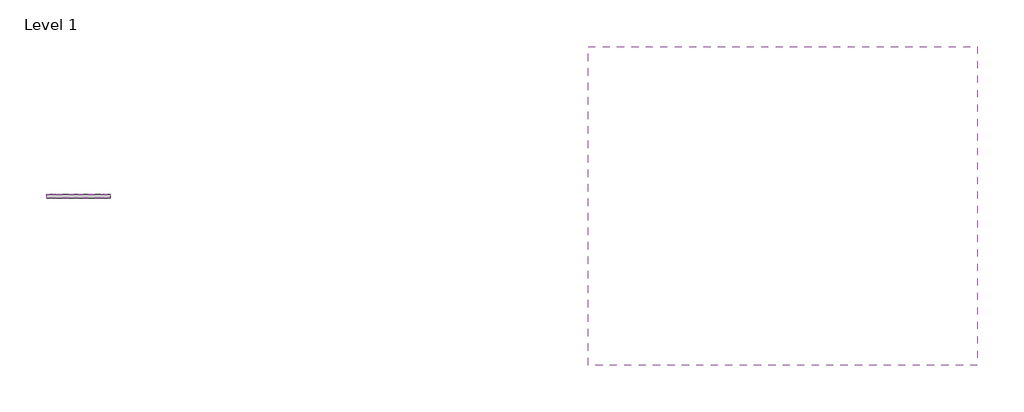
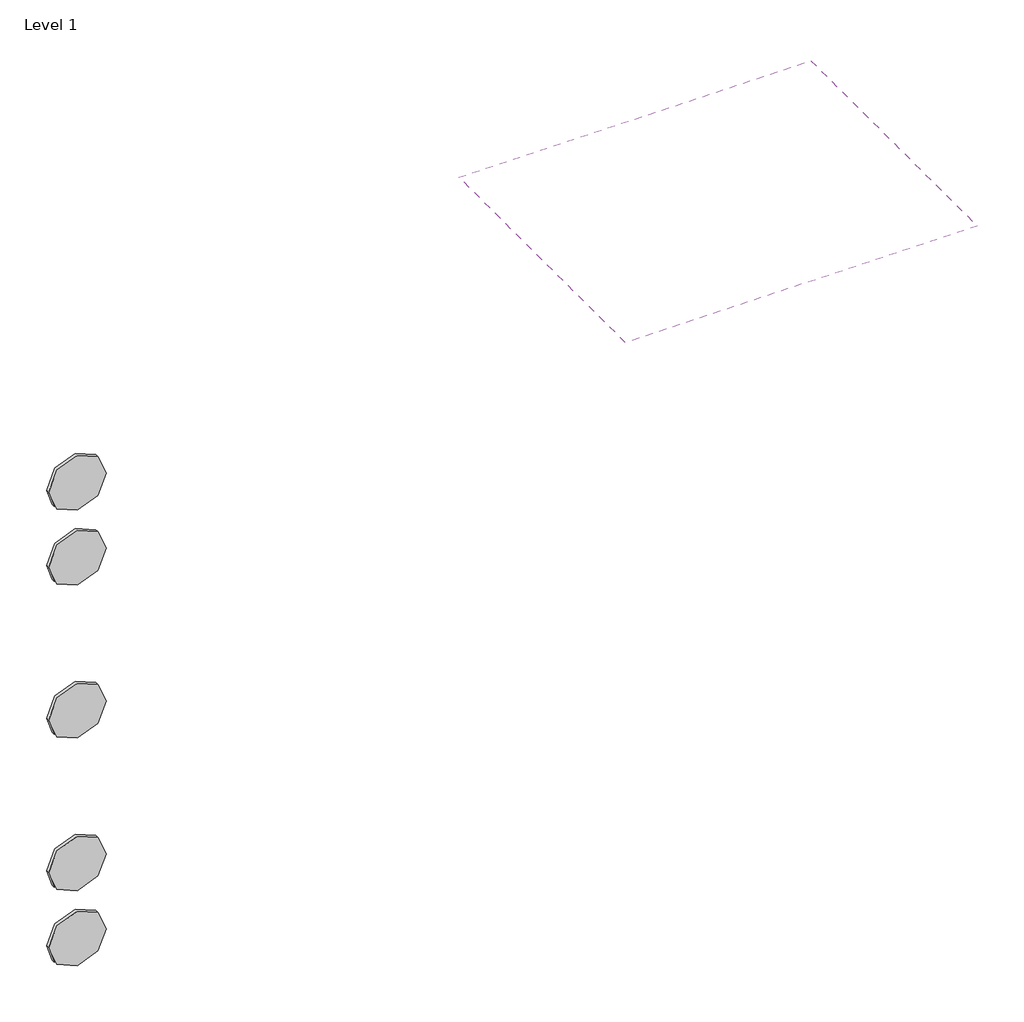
# One storey, incomplete: 5 proxies, 1 covering.
"""IFC4 building model written with IfcOpenShell, lengths in millimetres."""

from ifc_helpers import new_model, si_unit, frame, origin, place, context, project, spatial, polyline, outline, extrude, transform, mapped, element, save
from components import materialmodel_materialmodel_41144b76

model = new_model("IFC4")

# Units and contexts
model_context = context("Model", 3, world=origin())
ifc_project = project(units=[si_unit("LENGTHUNIT", "METRE", prefix="MILLI")], contexts=[model_context])

# Site, building, storey
site = spatial("IfcSite", under=ifc_project)
building = spatial("IfcBuilding", under=site)
storey = spatial("IfcBuildingStorey", under=building, Name="Level 1", Elevation=0.0)

# Proxies
placement = place(None, origin())
materialmodel_materialmodel_shape = materialmodel_materialmodel_41144b76(model_context)
element("IfcBuildingElementProxy", 1, Name="MaterialModel : MaterialModel", ObjectType="MaterialModel : MaterialModel", at=placement, inside=storey, context=model_context, shape_type="MappedRepresentation", body=[
    mapped(materialmodel_materialmodel_shape, transform((-16077.8072231, 6097.5863071, 816.7046249), x_axis=(1.0, 0.0, 0.0), y_axis=(0.0, 1.0, 0.0), z_axis=(0.0, 0.0, 1.0))),
])
element("IfcBuildingElementProxy", 2, Name="MaterialModel : MaterialModel", ObjectType="MaterialModel : MaterialModel", at=placement, inside=storey, context=model_context, shape_type="MappedRepresentation", body=[
    mapped(materialmodel_materialmodel_shape, transform((-16077.8072231, 6097.5863071, 1652.218674), x_axis=(1.0, 0.0, 0.0), y_axis=(0.0, 1.0, 0.0), z_axis=(0.0, 0.0, 1.0))),
])
element("IfcBuildingElementProxy", 3, Name="MaterialModel : MaterialModel", ObjectType="MaterialModel : MaterialModel", at=placement, inside=storey, context=model_context, shape_type="MappedRepresentation", body=[
    mapped(materialmodel_materialmodel_shape, transform((-16077.8072231, 6097.5863071, 1377.218674), x_axis=(1.0, 0.0, 0.0), y_axis=(0.0, 1.0, 0.0), z_axis=(0.0, 0.0, 1.0))),
])
element("IfcBuildingElementProxy", 4, Name="MaterialModel : MaterialModel", ObjectType="MaterialModel : MaterialModel", at=placement, inside=storey, context=model_context, shape_type="MappedRepresentation", body=[
    mapped(materialmodel_materialmodel_shape, transform((-16077.8072231, 6097.5863071, 256.7046249), x_axis=(1.0, 0.0, 0.0), y_axis=(0.0, 1.0, 0.0), z_axis=(0.0, 0.0, 1.0))),
])
element("IfcBuildingElementProxy", 5, Name="MaterialModel : MaterialModel", ObjectType="MaterialModel : MaterialModel", at=placement, inside=storey, context=model_context, shape_type="MappedRepresentation", body=[
    mapped(materialmodel_materialmodel_shape, transform((-16077.8072231, 6097.5863071, -18.2953751), x_axis=(1.0, 0.0, 0.0), y_axis=(0.0, 1.0, 0.0), z_axis=(0.0, 0.0, 1.0))),
])

# Covering
element("IfcCovering", 6, ObjectType="600 x 1200mm Grid", at=placement, inside=storey, context=model_context, shape_type="SweptSolid", body=[
    extrude(outline(polyline([(-13260.883584, 6561.1087432), (-13260.883584, 5561.1087432), (-14480.883584, 5561.1087432), (-14480.883584, 6561.1087432), (-13260.883584, 6561.1087432)])), frame((0.0, 0.0, 2000.0), z_axis=(0.0, 0.0, 1.0), x_axis=(1.0, 0.0, 0.0)), (0.0, 0.0, 1.0), 52.0),
])

save(model, "model.ifc")
